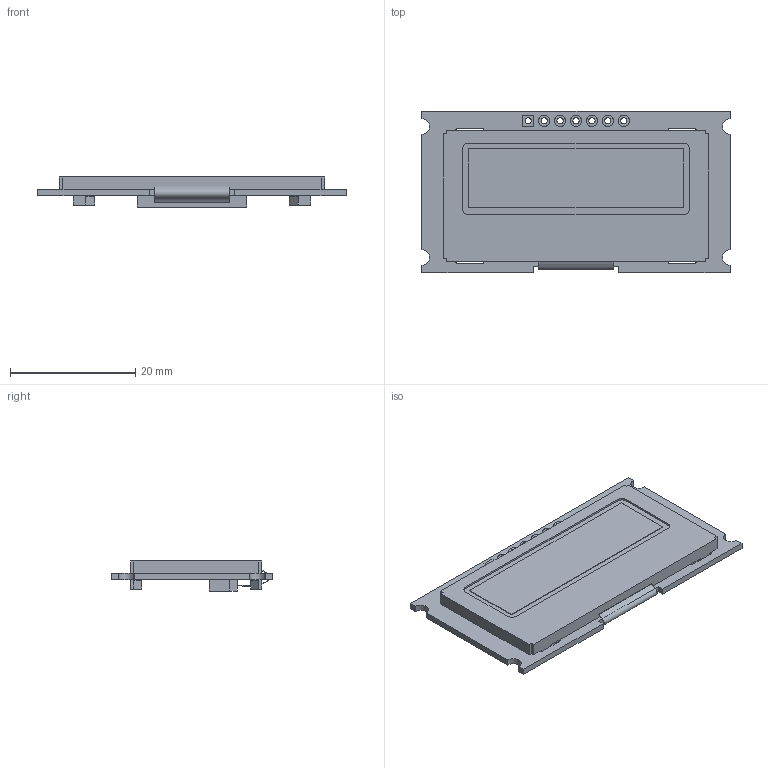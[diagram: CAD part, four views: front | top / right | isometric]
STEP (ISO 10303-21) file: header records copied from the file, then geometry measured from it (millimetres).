
FILE_DESCRIPTION (( 'STEP AP214' ), '1' );
FILE_NAME ('NHD-0216AW-IB3.STEP', '2018-05-30T13:48:14', ( '' ), ( '' ), 'SwSTEP 2.0', 'SolidWorks 2018', '' );
FILE_SCHEMA (( 'AUTOMOTIVE_DESIGN' ));
Length unit declared in the file: millimetre
Products named in the file (1): NHD-0216AW-IB3
Bounding box: 49.2 x 25.7 x 4.8 mm (x, y, z)
Volume: 3056.4 mm3; surface area: 3286.1 mm2
Topology: 1 solids, 1 shells, 193 faces, 511 edges, 334 vertices
Faces by surface type: plane 127, cylinder 64, bspline 2
Entity records: 8202 total; most frequent: CARTESIAN_POINT 1097, ORIENTED_EDGE 1022, DIRECTION 1019, EDGE_CURVE 511, LINE 379, VECTOR 379, VERTEX_POINT 334, AXIS2_PLACEMENT_3D 320
